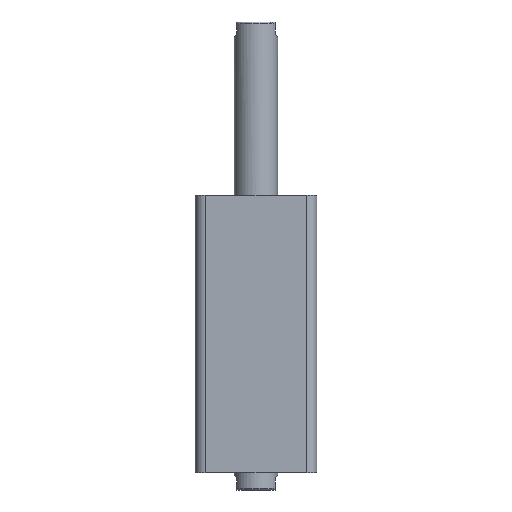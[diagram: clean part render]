
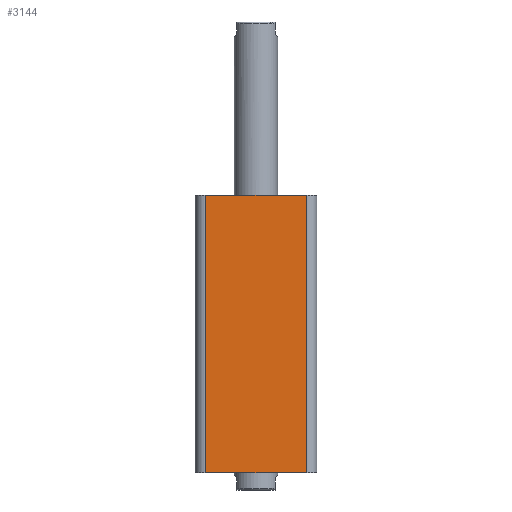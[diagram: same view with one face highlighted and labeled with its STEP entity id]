
A CAD part, front view. The second image highlights one B-rep face of the part: STEP entity #3144.
In plain terms, the highlighted planar face has unit normal (0, -1, 0).
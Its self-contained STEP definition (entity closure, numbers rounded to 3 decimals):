
#79 = CARTESIAN_POINT ( 'NONE',  ( -35., -35., 160. ) ) ;
#91 = DIRECTION ( 'NONE',  ( 1., 0., 0. ) ) ;
#92 = DIRECTION ( 'NONE',  ( 0., 0., -1. ) ) ;
#93 = CARTESIAN_POINT ( 'NONE',  ( -29., -35., 160. ) ) ;
#94 = DIRECTION ( 'NONE',  ( 1., 0., 0. ) ) ;
#98 = CARTESIAN_POINT ( 'NONE',  ( 29., -35., 160. ) ) ;
#99 = CARTESIAN_POINT ( 'NONE',  ( -35., -35., 0. ) ) ;
#104 = DIRECTION ( 'NONE',  ( 0., 0., 1. ) ) ;
#155 = CARTESIAN_POINT ( 'NONE',  ( -29., -35., 160. ) ) ;
#435 = CARTESIAN_POINT ( 'NONE',  ( -35., -35., 160. ) ) ;
#437 = PLANE ( 'NONE',  #1945 ) ;
#439 = DIRECTION ( 'NONE',  ( 0., 1., 0. ) ) ;
#440 = DIRECTION ( 'NONE',  ( 0., 0., 1. ) ) ;
#860 = VERTEX_POINT ( 'NONE', #155 ) ;
#883 = LINE ( 'NONE', #99, #890 ) ;
#885 = VECTOR ( 'NONE', #92, 1000. ) ;
#886 = LINE ( 'NONE', #98, #888 ) ;
#888 = VECTOR ( 'NONE', #104, 1000. ) ;
#889 = LINE ( 'NONE', #93, #885 ) ;
#890 = VECTOR ( 'NONE', #94, 1000. ) ;
#893 = LINE ( 'NONE', #79, #896 ) ;
#896 = VECTOR ( 'NONE', #91, 1000. ) ;
#1025 = FACE_OUTER_BOUND ( 'NONE', #2496, .T. ) ;
#1526 = EDGE_CURVE ( 'NONE', #2935, #2937, #886, .T. ) ;
#1527 = EDGE_CURVE ( 'NONE', #2936, #2935, #883, .T. ) ;
#1528 = EDGE_CURVE ( 'NONE', #860, #2936, #889, .T. ) ;
#1533 = EDGE_CURVE ( 'NONE', #860, #2937, #893, .T. ) ;
#1945 = AXIS2_PLACEMENT_3D ( 'NONE', #435, #439, #440 ) ;
#2338 = CARTESIAN_POINT ( 'NONE',  ( 29., -35., 0. ) ) ;
#2339 = CARTESIAN_POINT ( 'NONE',  ( -29., -35., 0. ) ) ;
#2340 = CARTESIAN_POINT ( 'NONE',  ( 29., -35., 160. ) ) ;
#2496 = EDGE_LOOP ( 'NONE', ( #2959, #2960, #2961, #2962 ) ) ;
#2935 = VERTEX_POINT ( 'NONE', #2338 ) ;
#2936 = VERTEX_POINT ( 'NONE', #2339 ) ;
#2937 = VERTEX_POINT ( 'NONE', #2340 ) ;
#2959 = ORIENTED_EDGE ( 'NONE', *, *, #1533, .F. ) ;
#2960 = ORIENTED_EDGE ( 'NONE', *, *, #1528, .T. ) ;
#2961 = ORIENTED_EDGE ( 'NONE', *, *, #1527, .T. ) ;
#2962 = ORIENTED_EDGE ( 'NONE', *, *, #1526, .T. ) ;
#3144 = ADVANCED_FACE ( 'NONE', ( #1025 ), #437, .F. ) ;
